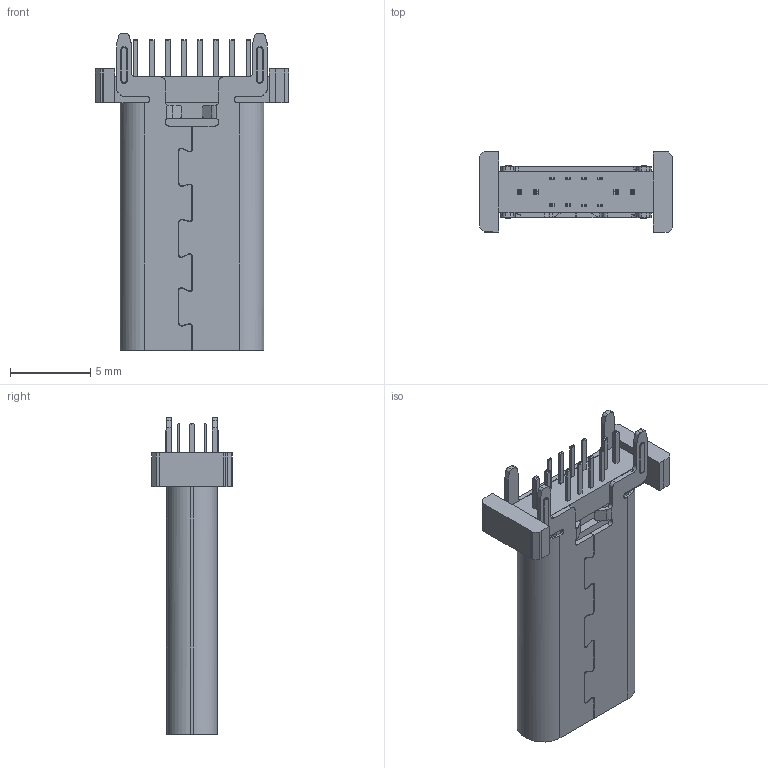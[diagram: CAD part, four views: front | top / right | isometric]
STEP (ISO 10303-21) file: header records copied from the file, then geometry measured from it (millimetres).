
FILE_DESCRIPTION((''),'2;1');
FILE_NAME('ASM0001_ASM','2024-10-25T',('WYH'),(''),'PRO/ENGINEER BY PARAMETRIC TECHNOLOGY CORPORATION, 2013040','PRO/ENGINEER BY PARAMETRIC TECHNOLOGY CORPORATION, 2013040','');
FILE_SCHEMA(('CONFIG_CONTROL_DESIGN'));
Length unit declared in the file: millimetre
Products named in the file (1): ASM0001_ASM
Bounding box: 12.01 x 5.03 x 19.7 mm (x, y, z)
Volume: 381.4 mm3; surface area: 867.1 mm2
Topology: 1 solids, 10 shells, 628 faces, 1759 edges, 1166 vertices
Faces by surface type: plane 469, cylinder 132, cone 19, torus 8
Entity records: 20261 total; most frequent: CARTESIAN_POINT 3840, ORIENTED_EDGE 3518, DIRECTION 3270, EDGE_CURVE 1759, VECTOR 1392, LINE 1392, VERTEX_POINT 1166, AXIS2_PLACEMENT_3D 939
